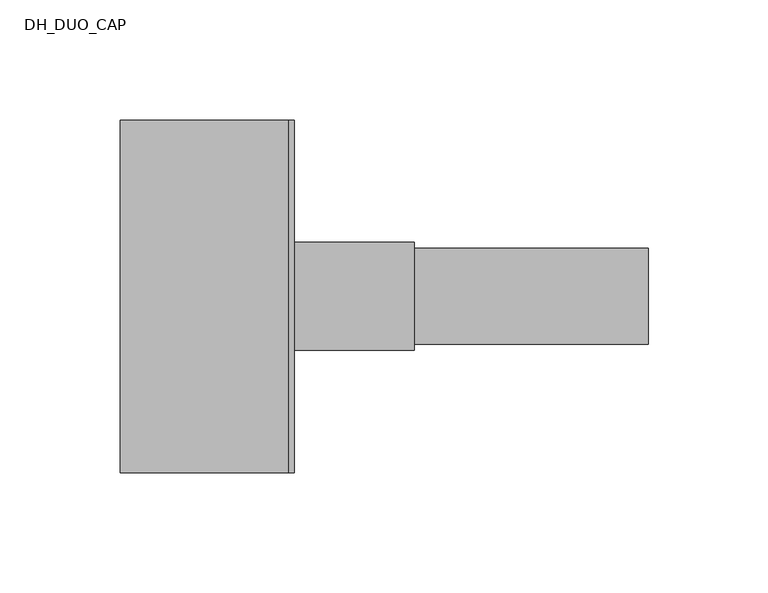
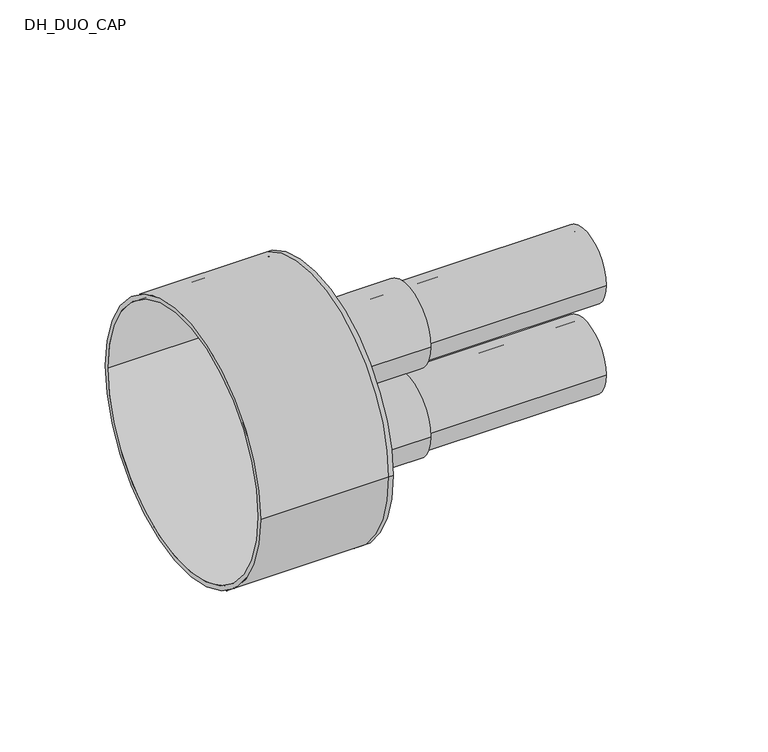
"""IFC4 building model written with IfcOpenShell, lengths in millimetres: pipe fitting geometry, DH_DUO_CAP : RAUTHERMEX DUO + 11 Heating - Rubber Cap."""

from ifc_helpers import new_model, si_unit, point, frame, frame_2d, origin, place, context, project, spatial, polyline, circle_curve, trimmed, segment, composite_curve, outline, extrude, source, transform, mapped, element, save
from ifc_brep_helpers import plane_surface, cylinder_surface, revolved_surface, advanced_brep


def dh_duo_cap_b70f6ac3(model_context):
    return source(origin(), model_context, "Body", "SolidModel", [
        extrude(outline(composite_curve([segment(trimmed(circle_curve(frame_2d((0.0, -26.0)), 20.0), [point((-20.0, -26.0))], [point((20.0, -26.0))], False, "CARTESIAN"), True, "CONTINUOUS"), segment(trimmed(circle_curve(frame_2d((0.0, -26.0)), 20.0), [point((20.0, -26.0))], [point((-20.0, -26.0))], False, "CARTESIAN"), True, "CONTINUOUS")], self_intersect=False), holes=[composite_curve([segment(trimmed(circle_curve(frame_2d((0.0, -26.0)), 16.3), [point((-16.3, -26.0))], [point((16.3, -26.0))], True, "CARTESIAN"), True, "CONTINUOUS"), segment(trimmed(circle_curve(frame_2d((0.0, -26.0)), 16.3), [point((16.3, -26.0))], [point((-16.3, -26.0))], True, "CARTESIAN"), True, "CONTINUOUS")], self_intersect=False)]), frame((0.0, 0.0, 0.0), z_axis=(1.0, 0.0, 0.0), x_axis=(0.0, 1.0, 0.0)), (0.0, 0.0, 1.0), 150.0),
        extrude(outline(composite_curve([segment(trimmed(circle_curve(frame_2d((0.0, 26.0)), 20.0), [point((-20.0, 26.0))], [point((20.0, 26.0))], False, "CARTESIAN"), True, "CONTINUOUS"), segment(trimmed(circle_curve(frame_2d((0.0, 26.0)), 20.0), [point((20.0, 26.0))], [point((-20.0, 26.0))], False, "CARTESIAN"), True, "CONTINUOUS")], self_intersect=False), holes=[composite_curve([segment(trimmed(circle_curve(frame_2d((0.0, 26.0)), 16.3), [point((-16.3, 26.0))], [point((16.3, 26.0))], True, "CARTESIAN"), True, "CONTINUOUS"), segment(trimmed(circle_curve(frame_2d((0.0, 26.0)), 16.3), [point((16.3, 26.0))], [point((-16.3, 26.0))], True, "CARTESIAN"), True, "CONTINUOUS")], self_intersect=False)]), frame((0.0, 0.0, 0.0), z_axis=(1.0, 0.0, 0.0), x_axis=(0.0, 1.0, 0.0)), (0.0, 0.0, 1.0), 150.0),
        advanced_brep(
        [(-70.0, -73.5, 0.0), (-70.0, 73.5, 0.0), (-70.0, -71.0, 0.0), (-70.0, 71.0, 0.0), (0.0, -71.0, 0.0), (0.0, 71.0, 0.0), (0.0, -73.5, 0.0), (0.0, 73.5, 0.0), (0.0, 20.0, 26.0), (0.0, -20.0, 26.0), (0.0, 20.0, -26.0), (0.0, -20.0, -26.0), (2.5, -73.5, 0.0), (2.5, 73.5, 0.0), (2.5, -20.0, 26.0), (2.5, 20.0, 26.0), (2.5, -20.0, -26.0), (2.5, 20.0, -26.0)],
        [
            (0, 1, circle_curve(frame((-70.0, 0.0, 0.0), z_axis=(-1.0, 0.0, 0.0), x_axis=(0.0, 1.0, 0.0)), 73.5)),
            (1, 0, circle_curve(frame((-70.0, 0.0, 0.0), z_axis=(-1.0, 0.0, 0.0), x_axis=(0.0, 1.0, 0.0)), 73.5)),
            (2, 3, circle_curve(frame((-70.0, 0.0, 0.0), z_axis=(1.0, 0.0, 0.0), x_axis=(0.0, 1.0, 0.0)), 71.0)),
            (3, 2, circle_curve(frame((-70.0, 0.0, 0.0), z_axis=(1.0, 0.0, 0.0), x_axis=(0.0, 1.0, 0.0)), 71.0)),
            (2, 4),
            (4, 5, circle_curve(frame((0.0, 0.0, 0.0), z_axis=(1.0, 0.0, 0.0), x_axis=(0.0, 1.0, 0.0)), 71.0)),
            (5, 3),
            (5, 4, circle_curve(frame((0.0, 0.0, 0.0), z_axis=(1.0, 0.0, 0.0), x_axis=(0.0, 1.0, 0.0)), 71.0)),
            (0, 6),
            (6, 7, circle_curve(frame((0.0, 0.0, 0.0), z_axis=(-1.0, 0.0, 0.0), x_axis=(0.0, 1.0, 0.0)), 73.5)),
            (7, 1),
            (7, 6, circle_curve(frame((0.0, 0.0, 0.0), z_axis=(-1.0, 0.0, 0.0), x_axis=(0.0, 1.0, 0.0)), 73.5)),
            (8, 9, circle_curve(frame((0.0, 0.0, 26.0), z_axis=(1.0, 0.0, 0.0), x_axis=(0.0, 1.0, 0.0)), 20.0)),
            (9, 8, circle_curve(frame((0.0, 0.0, 26.0), z_axis=(1.0, 0.0, 0.0), x_axis=(0.0, 1.0, 0.0)), 20.0)),
            (10, 11, circle_curve(frame((0.0, 0.0, -26.0), z_axis=(1.0, 0.0, 0.0), x_axis=(0.0, 1.0, 0.0)), 20.0)),
            (11, 10, circle_curve(frame((0.0, 0.0, -26.0), z_axis=(1.0, 0.0, 0.0), x_axis=(0.0, 1.0, 0.0)), 20.0)),
            (12, 13, circle_curve(frame((2.5, 0.0, 0.0), z_axis=(1.0, 0.0, 0.0), x_axis=(0.0, 1.0, 0.0)), 73.5)),
            (13, 12, circle_curve(frame((2.5, 0.0, 0.0), z_axis=(1.0, 0.0, 0.0), x_axis=(0.0, 1.0, 0.0)), 73.5)),
            (14, 15, circle_curve(frame((2.5, 0.0, 26.0), z_axis=(-1.0, 0.0, 0.0), x_axis=(0.0, 1.0, 0.0)), 20.0)),
            (15, 14, circle_curve(frame((2.5, 0.0, 26.0), z_axis=(-1.0, 0.0, 0.0), x_axis=(0.0, 1.0, 0.0)), 20.0)),
            (16, 17, circle_curve(frame((2.5, 0.0, -26.0), z_axis=(-1.0, 0.0, 0.0), x_axis=(0.0, 1.0, 0.0)), 20.0)),
            (17, 16, circle_curve(frame((2.5, 0.0, -26.0), z_axis=(-1.0, 0.0, 0.0), x_axis=(0.0, 1.0, 0.0)), 20.0)),
            (13, 7),
            (6, 12),
            (8, 15),
            (14, 9),
            (10, 17),
            (16, 11),
        ],
        [
            plane_surface(frame((-70.0, 0.0, 0.0), z_axis=(-1.0, 0.0, 0.0), x_axis=(0.0, 0.0, 1.0))),
            revolved_surface(polyline([(0.0, 71.0, 0.0), (-70.0, 71.0, 0.0)]), (-70.0, 0.0, 0.0), (1.0, 0.0, 0.0)),
            cylinder_surface(frame((-70.0, 0.0, 0.0), z_axis=(-1.0, 0.0, 0.0), x_axis=(0.0, 1.0, 0.0)), 73.5),
            plane_surface(frame((0.0, 0.0, 0.0), z_axis=(-1.0, 0.0, 0.0), x_axis=(0.0, 0.0, 1.0))),
            plane_surface(frame((2.5, 0.0, 0.0), z_axis=(1.0, 0.0, 0.0), x_axis=(0.0, 0.0, 1.0))),
            cylinder_surface(frame((0.0, 0.0, 0.0), z_axis=(-1.0, 0.0, 0.0), x_axis=(0.0, 1.0, 0.0)), 73.5),
            revolved_surface(polyline([(0.0, 20.0, 26.0), (2.5, 20.0, 26.0)]), (0.0, 0.0, 26.0), (-1.0, 0.0, 0.0)),
            revolved_surface(polyline([(0.0, 20.0, -26.0), (2.5, 20.0, -26.0)]), (0.0, 0.0, -26.0), (-1.0, 0.0, 0.0)),
        ],
        [
            (0, [[1, 2], [3, 4]]),
            (1, [[-3, 5, 6, 7]]),
            (1, [[-4, -7, 8, -5]]),
            (2, [[-1, 9, 10, 11]]),
            (2, [[-2, -11, 12, -9]]),
            (3, [[-6, -8], [13, 14], [15, 16]]),
            (4, [[17, 18], [19, 20], [21, 22]]),
            (5, [[-18, 23, -10, 24]]),
            (5, [[-17, -24, -12, -23]]),
            (6, [[25, -19, 26, -13]]),
            (6, [[-25, -14, -26, -20]]),
            (7, [[27, -21, 28, -15]]),
            (7, [[-27, -16, -28, -22]]),
        ],
    ),
        extrude(outline(composite_curve([segment(trimmed(circle_curve(frame_2d((0.0, -26.0)), 22.5), [point((-22.5, -26.0))], [point((22.5, -26.0))], False, "CARTESIAN"), True, "CONTINUOUS"), segment(trimmed(circle_curve(frame_2d((0.0, -26.0)), 22.5), [point((22.5, -26.0))], [point((-22.5, -26.0))], False, "CARTESIAN"), True, "CONTINUOUS")], self_intersect=False), holes=[composite_curve([segment(trimmed(circle_curve(frame_2d((0.0, -26.0)), 20.0), [point((-20.0, -26.0))], [point((20.0, -26.0))], True, "CARTESIAN"), True, "CONTINUOUS"), segment(trimmed(circle_curve(frame_2d((0.0, -26.0)), 20.0), [point((20.0, -26.0))], [point((-20.0, -26.0))], True, "CARTESIAN"), True, "CONTINUOUS")], self_intersect=False)]), frame((2.5, 0.0, 0.0), z_axis=(1.0, 0.0, 0.0), x_axis=(0.0, 1.0, 0.0)), (0.0, 0.0, 1.0), 50.0),
        extrude(outline(composite_curve([segment(trimmed(circle_curve(frame_2d((0.0, 26.0)), 22.5), [point((-22.5, 26.0))], [point((22.5, 26.0))], False, "CARTESIAN"), True, "CONTINUOUS"), segment(trimmed(circle_curve(frame_2d((0.0, 26.0)), 22.5), [point((22.5, 26.0))], [point((-22.5, 26.0))], False, "CARTESIAN"), True, "CONTINUOUS")], self_intersect=False), holes=[composite_curve([segment(trimmed(circle_curve(frame_2d((0.0, 26.0)), 20.0), [point((-20.0, 26.0))], [point((20.0, 26.0))], True, "CARTESIAN"), True, "CONTINUOUS"), segment(trimmed(circle_curve(frame_2d((0.0, 26.0)), 20.0), [point((20.0, 26.0))], [point((-20.0, 26.0))], True, "CARTESIAN"), True, "CONTINUOUS")], self_intersect=False)]), frame((2.5, 0.0, 0.0), z_axis=(1.0, 0.0, 0.0), x_axis=(0.0, 1.0, 0.0)), (0.0, 0.0, 1.0), 50.0),
    ])


if __name__ == "__main__":
    model = new_model("IFC4")
    model_context = context("Model", 3, world=origin())
    ifc_project = project(units=[si_unit("LENGTHUNIT", "METRE", prefix="MILLI")], contexts=[model_context])
    site = spatial("IfcSite", under=ifc_project)
    building = spatial("IfcBuilding", under=site)
    placement = place(None, origin())
    dh_duo_cap_shape = dh_duo_cap_b70f6ac3(model_context)
    element("IfcPipeFitting", 1, ObjectType="DH_DUO_CAP : RAUTHERMEX DUO + 11 Heating - Rubber Cap", at=placement, inside=building, context=model_context, shape_type="MappedRepresentation", body=[
        mapped(dh_duo_cap_shape, transform((0.0, 0.0, 0.0), x_axis=(1.0, 0.0, 0.0), y_axis=(0.0, 1.0, 0.0), z_axis=(0.0, 0.0, 1.0))),
    ])
    save(model, "model.ifc")
